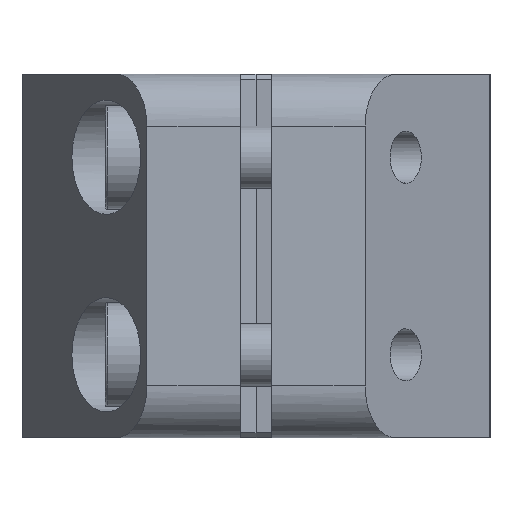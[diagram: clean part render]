
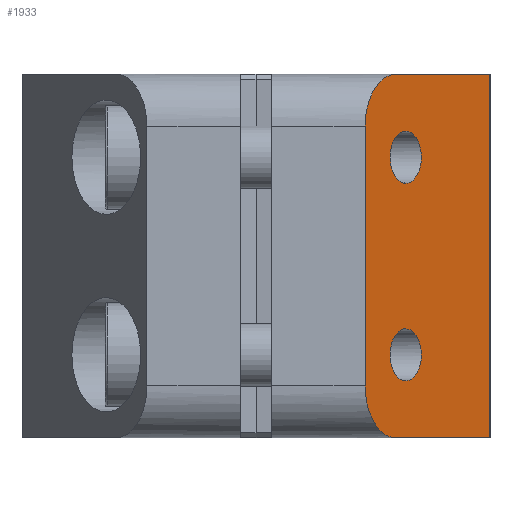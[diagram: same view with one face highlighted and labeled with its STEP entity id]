
A CAD part, left-side view. The second image highlights one B-rep face of the part: STEP entity #1933.
In plain terms, the highlighted planar face has unit normal (-0.514, -0.858, 0).
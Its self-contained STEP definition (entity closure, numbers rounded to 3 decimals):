
#19 =( BOUNDED_CURVE ( )  B_SPLINE_CURVE ( 3, ( #218, #1904, #2907, #897 ),
 .UNSPECIFIED., .F., .T. ) 
 B_SPLINE_CURVE_WITH_KNOTS ( ( 4, 4 ),
 ( 4.712, 7.854 ),
 .UNSPECIFIED. ) 
 CURVE ( )  GEOMETRIC_REPRESENTATION_ITEM ( )  RATIONAL_B_SPLINE_CURVE ( ( 1., 0.333, 0.333, 1. ) ) 
 REPRESENTATION_ITEM ( '' )  );
#59 = CARTESIAN_POINT ( 'NONE',  ( 0., 12., 0. ) ) ;
#68 = LINE ( 'NONE', #59, #969 ) ;
#87 = DIRECTION ( 'NONE',  ( 0., 0., 1. ) ) ;
#108 = VERTEX_POINT ( 'NONE', #3025 ) ;
#135 = CARTESIAN_POINT ( 'NONE',  ( 2.071, 10.757, 0. ) ) ;
#180 = EDGE_LOOP ( 'NONE', ( #1552, #604 ) ) ;
#218 = CARTESIAN_POINT ( 'NONE',  ( 6.5, 8.1, 24.5 ) ) ;
#243 = DIRECTION ( 'NONE',  ( -0.857, 0.514, 0. ) ) ;
#264 = CARTESIAN_POINT ( 'NONE',  ( 6.5, 8.1, 5.5 ) ) ;
#328 = EDGE_CURVE ( 'NONE', #108, #4180, #3986, .T. ) ;
#394 = CARTESIAN_POINT ( 'NONE',  ( 11.5, 5.1, 29.5 ) ) ;
#418 = VECTOR ( 'NONE', #87, 1000. ) ;
#431 = EDGE_CURVE ( 'NONE', #2784, #4269, #2692, .T. ) ;
#509 = EDGE_CURVE ( 'NONE', #2779, #934, #1915, .T. ) ;
#604 = ORIENTED_EDGE ( 'NONE', *, *, #1939, .T. ) ;
#663 = CARTESIAN_POINT ( 'NONE',  ( 6.5, 8.1, 29.5 ) ) ;
#844 = LINE ( 'NONE', #1333, #2537 ) ;
#897 = CARTESIAN_POINT ( 'NONE',  ( 6.5, 8.1, 29.5 ) ) ;
#914 = VECTOR ( 'NONE', #243, 1000. ) ;
#934 = VERTEX_POINT ( 'NONE', #2132 ) ;
#969 = VECTOR ( 'NONE', #2075, 1000. ) ;
#987 = CARTESIAN_POINT ( 'NONE',  ( 5., 9., 35. ) ) ;
#1006 = CARTESIAN_POINT ( 'NONE',  ( 1.5, 11.1, 10.5 ) ) ;
#1045 = CARTESIAN_POINT ( 'NONE',  ( 6.5, 8.1, 29.5 ) ) ;
#1046 = VERTEX_POINT ( 'NONE', #4313 ) ;
#1124 = CARTESIAN_POINT ( 'NONE',  ( 20., 0., 0. ) ) ;
#1230 = DIRECTION ( 'NONE',  ( -0.857, 0.514, 0. ) ) ;
#1257 = EDGE_CURVE ( 'NONE', #4269, #2784, #3926, .T. ) ;
#1265 = EDGE_CURVE ( 'NONE', #108, #1335, #844, .T. ) ;
#1285 = ORIENTED_EDGE ( 'NONE', *, *, #3570, .F. ) ;
#1333 = CARTESIAN_POINT ( 'NONE',  ( 0., 12., 0. ) ) ;
#1335 = VERTEX_POINT ( 'NONE', #2065 ) ;
#1353 = CARTESIAN_POINT ( 'NONE',  ( 6.5, 8.1, 5.5 ) ) ;
#1409 = CARTESIAN_POINT ( 'NONE',  ( 6.5, 8.1, 10.5 ) ) ;
#1483 = ORIENTED_EDGE ( 'NONE', *, *, #1257, .T. ) ;
#1552 = ORIENTED_EDGE ( 'NONE', *, *, #509, .T. ) ;
#1555 = FACE_BOUND ( 'NONE', #180, .T. ) ;
#1579 = ORIENTED_EDGE ( 'NONE', *, *, #3410, .T. ) ;
#1732 = CARTESIAN_POINT ( 'NONE',  ( 11.5, 5.1, 24.5 ) ) ;
#1813 = CARTESIAN_POINT ( 'NONE',  ( 0., 12., 5. ) ) ;
#1904 = CARTESIAN_POINT ( 'NONE',  ( 1.5, 11.1, 24.5 ) ) ;
#1915 =( BOUNDED_CURVE ( )  B_SPLINE_CURVE ( 3, ( #1045, #394, #1732, #2079 ),
 .UNSPECIFIED., .F., .T. ) 
 B_SPLINE_CURVE_WITH_KNOTS ( ( 4, 4 ),
 ( 1.571, 4.712 ),
 .UNSPECIFIED. ) 
 CURVE ( )  GEOMETRIC_REPRESENTATION_ITEM ( )  RATIONAL_B_SPLINE_CURVE ( ( 1., 0.333, 0.333, 1. ) ) 
 REPRESENTATION_ITEM ( '' )  );
#1933 = ADVANCED_FACE ( 'NONE', ( #3329, #1555, #2557 ), #3564, .F. ) ;
#1939 = EDGE_CURVE ( 'NONE', #934, #2779, #19, .T. ) ;
#2006 = CARTESIAN_POINT ( 'NONE',  ( 0., 12., 30. ) ) ;
#2025 = CARTESIAN_POINT ( 'NONE',  ( 1.5, 11.1, 5.5 ) ) ;
#2040 =( BOUNDED_CURVE ( )  B_SPLINE_CURVE ( 3, ( #1813, #4151, #135, #2490 ),
 .UNSPECIFIED., .F., .F. ) 
 B_SPLINE_CURVE_WITH_KNOTS ( ( 4, 4 ),
 ( 0., 1.571 ),
 .UNSPECIFIED. ) 
 CURVE ( )  GEOMETRIC_REPRESENTATION_ITEM ( )  RATIONAL_B_SPLINE_CURVE ( ( 1., 0.805, 0.805, 1. ) ) 
 REPRESENTATION_ITEM ( '' )  );
#2064 = EDGE_LOOP ( 'NONE', ( #4359, #1579, #1285, #4181, #4309, #2853 ) ) ;
#2065 = CARTESIAN_POINT ( 'NONE',  ( 5., 9., 0. ) ) ;
#2075 = DIRECTION ( 'NONE',  ( 0., 0., 1. ) ) ;
#2079 = CARTESIAN_POINT ( 'NONE',  ( 6.5, 8.1, 24.5 ) ) ;
#2132 = CARTESIAN_POINT ( 'NONE',  ( 6.5, 8.1, 24.5 ) ) ;
#2287 = ORIENTED_EDGE ( 'NONE', *, *, #431, .T. ) ;
#2314 = CARTESIAN_POINT ( 'NONE',  ( 11.5, 5.1, 10.5 ) ) ;
#2385 = VERTEX_POINT ( 'NONE', #2459 ) ;
#2402 = DIRECTION ( 'NONE',  ( -0.857, 0.514, 0. ) ) ;
#2447 = EDGE_CURVE ( 'NONE', #2613, #1335, #2040, .T. ) ;
#2459 = CARTESIAN_POINT ( 'NONE',  ( 0., 12., 30. ) ) ;
#2490 = CARTESIAN_POINT ( 'NONE',  ( 5., 9., 0. ) ) ;
#2506 =( BOUNDED_CURVE ( )  B_SPLINE_CURVE ( 3, ( #987, #2666, #4017, #2006 ),
 .UNSPECIFIED., .F., .T. ) 
 B_SPLINE_CURVE_WITH_KNOTS ( ( 4, 4 ),
 ( 1.571, 3.142 ),
 .UNSPECIFIED. ) 
 CURVE ( )  GEOMETRIC_REPRESENTATION_ITEM ( )  RATIONAL_B_SPLINE_CURVE ( ( 1., 0.805, 0.805, 1. ) ) 
 REPRESENTATION_ITEM ( '' )  );
#2529 = EDGE_LOOP ( 'NONE', ( #1483, #2287 ) ) ;
#2537 = VECTOR ( 'NONE', #2402, 1000. ) ;
#2557 = FACE_OUTER_BOUND ( 'NONE', #2064, .T. ) ;
#2565 = CARTESIAN_POINT ( 'NONE',  ( 0., 12., 0. ) ) ;
#2613 = VERTEX_POINT ( 'NONE', #4262 ) ;
#2666 = CARTESIAN_POINT ( 'NONE',  ( 2.071, 10.757, 35. ) ) ;
#2692 =( BOUNDED_CURVE ( )  B_SPLINE_CURVE ( 3, ( #1353, #2025, #1006, #3696 ),
 .UNSPECIFIED., .F., .T. ) 
 B_SPLINE_CURVE_WITH_KNOTS ( ( 4, 4 ),
 ( 4.712, 7.854 ),
 .UNSPECIFIED. ) 
 CURVE ( )  GEOMETRIC_REPRESENTATION_ITEM ( )  RATIONAL_B_SPLINE_CURVE ( ( 1., 0.333, 0.333, 1. ) ) 
 REPRESENTATION_ITEM ( '' )  );
#2703 = LINE ( 'NONE', #3922, #914 ) ;
#2779 = VERTEX_POINT ( 'NONE', #663 ) ;
#2784 = VERTEX_POINT ( 'NONE', #4363 ) ;
#2853 = ORIENTED_EDGE ( 'NONE', *, *, #328, .T. ) ;
#2907 = CARTESIAN_POINT ( 'NONE',  ( 1.5, 11.1, 29.5 ) ) ;
#3025 = CARTESIAN_POINT ( 'NONE',  ( 20., 0., 0. ) ) ;
#3234 = DIRECTION ( 'NONE',  ( 0.514, 0.857, 0. ) ) ;
#3329 = FACE_BOUND ( 'NONE', #2529, .T. ) ;
#3389 = CARTESIAN_POINT ( 'NONE',  ( 11.5, 5.1, 5.5 ) ) ;
#3410 = EDGE_CURVE ( 'NONE', #1046, #2385, #2506, .T. ) ;
#3438 = CARTESIAN_POINT ( 'NONE',  ( 20., 0., 35. ) ) ;
#3564 = PLANE ( 'NONE',  #4020 ) ;
#3570 = EDGE_CURVE ( 'NONE', #2613, #2385, #68, .T. ) ;
#3696 = CARTESIAN_POINT ( 'NONE',  ( 6.5, 8.1, 10.5 ) ) ;
#3809 = EDGE_CURVE ( 'NONE', #4180, #1046, #2703, .T. ) ;
#3837 = CARTESIAN_POINT ( 'NONE',  ( 6.5, 8.1, 10.5 ) ) ;
#3922 = CARTESIAN_POINT ( 'NONE',  ( 0., 12., 35. ) ) ;
#3926 =( BOUNDED_CURVE ( )  B_SPLINE_CURVE ( 3, ( #1409, #2314, #3389, #264 ),
 .UNSPECIFIED., .F., .F. ) 
 B_SPLINE_CURVE_WITH_KNOTS ( ( 4, 4 ),
 ( 1.571, 4.712 ),
 .UNSPECIFIED. ) 
 CURVE ( )  GEOMETRIC_REPRESENTATION_ITEM ( )  RATIONAL_B_SPLINE_CURVE ( ( 1., 0.333, 0.333, 1. ) ) 
 REPRESENTATION_ITEM ( '' )  );
#3986 = LINE ( 'NONE', #1124, #418 ) ;
#4017 = CARTESIAN_POINT ( 'NONE',  ( 0., 12., 32.929 ) ) ;
#4020 = AXIS2_PLACEMENT_3D ( 'NONE', #2565, #3234, #1230 ) ;
#4151 = CARTESIAN_POINT ( 'NONE',  ( 0., 12., 2.071 ) ) ;
#4180 = VERTEX_POINT ( 'NONE', #3438 ) ;
#4181 = ORIENTED_EDGE ( 'NONE', *, *, #2447, .T. ) ;
#4262 = CARTESIAN_POINT ( 'NONE',  ( 0., 12., 5. ) ) ;
#4269 = VERTEX_POINT ( 'NONE', #3837 ) ;
#4309 = ORIENTED_EDGE ( 'NONE', *, *, #1265, .F. ) ;
#4313 = CARTESIAN_POINT ( 'NONE',  ( 5., 9., 35. ) ) ;
#4359 = ORIENTED_EDGE ( 'NONE', *, *, #3809, .T. ) ;
#4363 = CARTESIAN_POINT ( 'NONE',  ( 6.5, 8.1, 5.5 ) ) ;
